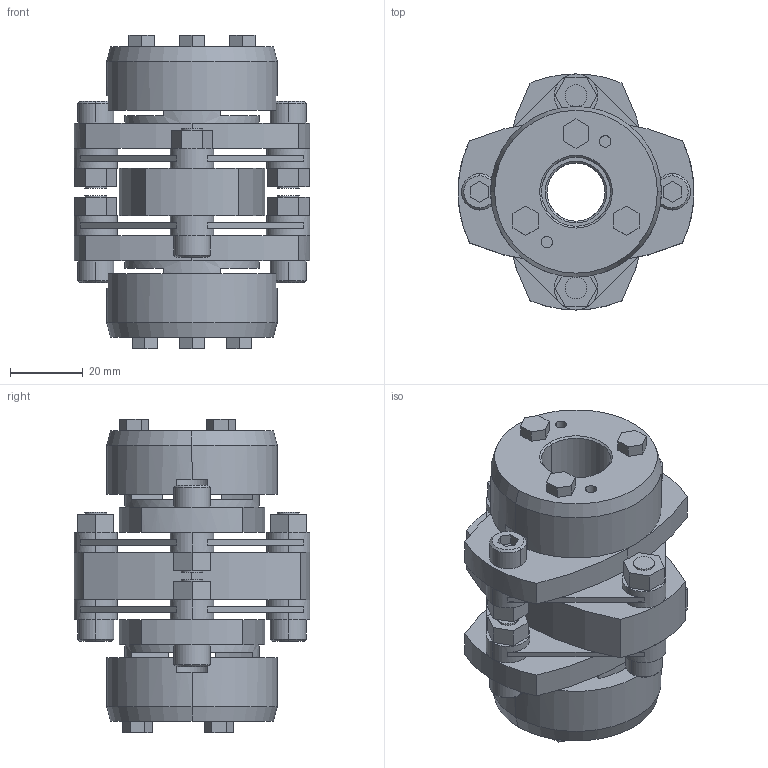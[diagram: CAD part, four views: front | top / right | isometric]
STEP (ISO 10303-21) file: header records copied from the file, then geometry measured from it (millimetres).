
FILE_DESCRIPTION((''),'2;1');
FILE_NAME('LCD-80T7-16×19.stp','2015-10-31T17:19:23',(''),(''),'AutoCAD STEP 2000i','AutoCAD 2000i',', , ');
FILE_SCHEMA(('CONFIG_CONTROL_DESIGN'));
Length unit declared in the file: millimetre
Products named in the file (8): LCD-65T7-17×19; 忣兜1; LC65T7-T019; LC65T7-T017-1; LC65T7-T017; LC65T7-T015-1; LC65T7-T015; LCD65-ITA
Assembly tree (7 placements, depth 2):
  LCD-65T7-17×19
    忣兜1
    LC65T7-T019
    LC65T7-T017-1
    LC65T7-T017
    LC65T7-T015-1
    LC65T7-T015
    LCD65-ITA
Bounding box: 65 x 65 x 86.4 mm (x, y, z)
Volume: 120056.5 mm3; surface area: 41476.7 mm2
Topology: 1 solids, 1 shells, 304 faces, 792 edges, 516 vertices
Faces by surface type: plane 180, cylinder 100, cone 24
Entity records: 9605 total; most frequent: DIRECTION 1708, CARTESIAN_POINT 1620, ORIENTED_EDGE 1584, EDGE_CURVE 792, AXIS2_PLACEMENT_3D 604, VERTEX_POINT 516, VECTOR 500, LINE 500
